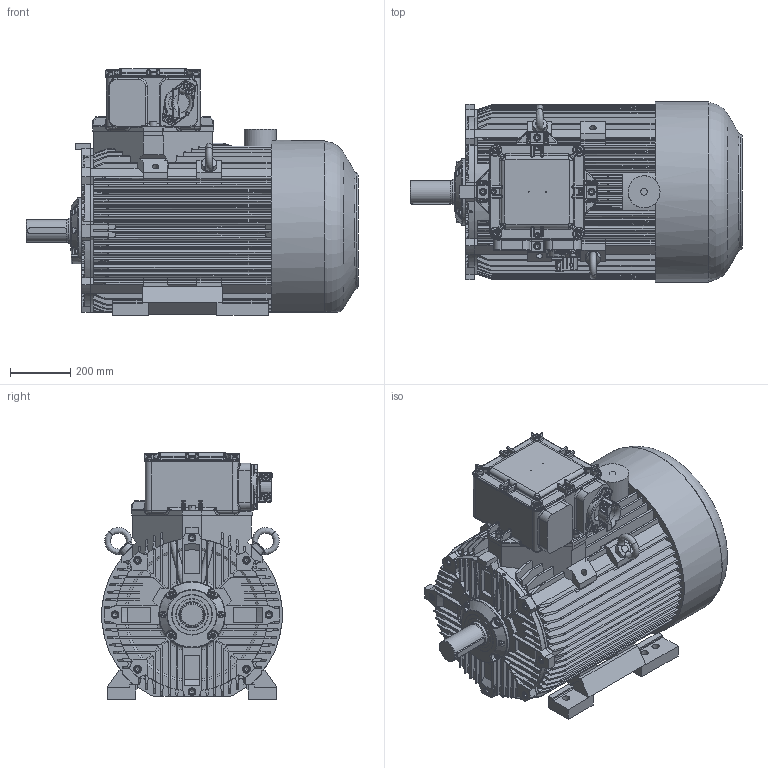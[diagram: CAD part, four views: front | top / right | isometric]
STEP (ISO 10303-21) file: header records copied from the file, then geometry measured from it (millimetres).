
FILE_DESCRIPTION(/* description */ ('Unknown'),/* implementation_level */ '2;1');
FILE_NAME(/* name */ 'EcSTe280SM4-8-IE2-3',/* time_stamp */ '2021-12-27T10:56:04+01:00',/* author */ ('Unknown'),/* organization */ ('Unknown'),/* preprocessor_version */ 'ST-DEVELOPER v16.7',/* originating_system */ 'DEX',/* authorisation */ $);
FILE_SCHEMA (('AUTOMOTIVE_DESIGN {1 0 10303 214 3 1 1}'));
Length unit declared in the file: millimetre
Products named in the file (1): EcSTe280SM4-8-IE2-3
Bounding box: 1099.99 x 597.51 x 817 mm (x, y, z)
Volume: 244411138.2 mm3; surface area: 5212309.4 mm2
Topology: 1 solids, 34 shells, 3283 faces, 8637 edges, 5389 vertices
Faces by surface type: plane 1247, cylinder 1026, cone 369, torus 318, bspline 239, sphere 84
Full cylindrical faces by diameter (mm): 3.2 x2, 4.5 x1, 6 x1, 8.16 x4, 8.376 x6, 8.917 x2, 10 x12, 11 x6, 12 x2, 13.835 x2, 16 x20, 17.5 x12, 18 x8, 18.376 x1, 19.6 x2, 20.752 x10, 22.376 x1, 24 x18, 26 x8, 67 x1, 75 x1, 81.5 x1, 84 x1, 85 x1, 87 x1, 106 x1, 218 x1, 220 x1
Entity records: 131665 total; most frequent: CARTESIAN_POINT 30871, DIRECTION 16224, ORIENTED_EDGE 16220, EDGE_CURVE 8110, AXIS2_PLACEMENT_3D 6220, VERTEX_POINT 5263, LINE 3784, VECTOR 3784
